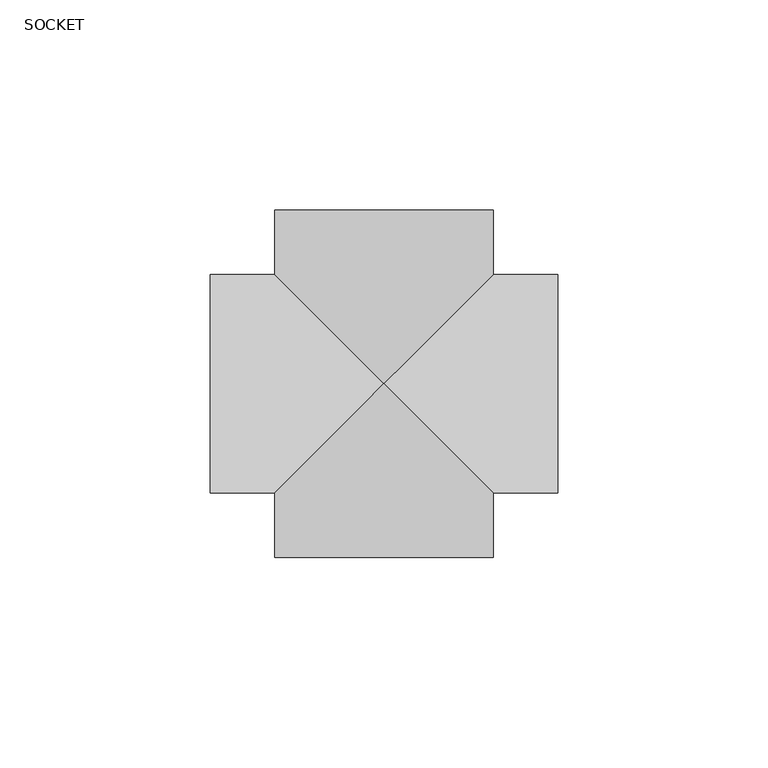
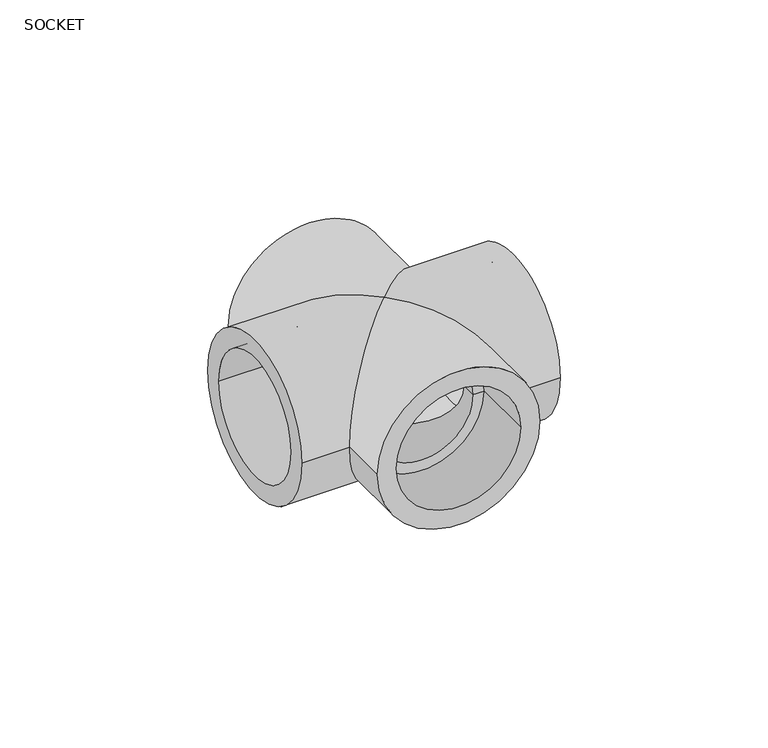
"""IFC4 building model written with IfcOpenShell, lengths in millimetres: pipe fitting geometry, Aquatherm - Cross Socket : SOCKET."""

from ifc_helpers import new_model, si_unit, frame, origin, place, context, project, spatial, polyline, circle_curve, ellipse_curve, source, transform, mapped, element, save
from ifc_brep_helpers import plane_surface, cylinder_surface, revolved_surface, advanced_brep


def socket_570f48e5(model_context):
    return source(origin(), model_context, "Body", "AdvancedBrep", [
        advanced_brep(
        [(-26.035, -41.402, 0.0), (26.035, -41.402, 0.0), (19.939, -41.402, 0.0), (-19.939, -41.402, 0.0), (-26.035, 41.402, 0.0), (26.035, 41.402, 0.0), (-19.939, 41.402, 0.0), (19.939, 41.402, 0.0), (-26.035, -26.035, 0.0), (0.0, 0.0, -26.035), (26.035, -26.035, 0.0), (26.035, 26.035, 0.0), (-26.035, 26.035, 0.0), (0.0, 0.0, 26.035), (41.402, -26.035, 0.0), (41.402, 26.035, 0.0), (41.402, 19.939, 0.0), (41.402, -19.939, 0.0), (-41.402, -26.035, 0.0), (-41.402, 26.035, 0.0), (-41.402, -19.939, 0.0), (-41.402, 19.939, 0.0), (-21.082, -19.939, 0.0), (-21.082, 19.939, 0.0), (21.082, -19.939, 0.0), (21.082, 19.939, 0.0), (21.082, 16.3137273, 0.0), (21.082, -16.3137273, 0.0), (16.3137273, 16.3137273, 0.0), (0.0, 0.0, -16.3137273), (16.3137273, -16.3137273, 0.0), (-21.082, 16.3137273, 0.0), (-21.082, -16.3137273, 0.0), (-16.3137273, -16.3137273, 0.0), (-16.3137273, 16.3137273, 0.0), (0.0, 0.0, 16.3137273), (-19.939, -21.082, 0.0), (19.939, -21.082, 0.0), (-19.939, 21.082, 0.0), (19.939, 21.082, 0.0), (-16.3137273, 21.082, 0.0), (16.3137273, 21.082, 0.0), (-16.3137273, -21.082, 0.0), (16.3137273, -21.082, 0.0)],
        [
            (0, 1, circle_curve(frame((0.0, -41.402, 0.0), z_axis=(0.0, -1.0, 0.0), x_axis=(1.0, 0.0, 0.0)), 26.035)),
            (1, 0, circle_curve(frame((0.0, -41.402, 0.0), z_axis=(0.0, -1.0, 0.0), x_axis=(1.0, 0.0, 0.0)), 26.035)),
            (2, 3, circle_curve(frame((0.0, -41.402, 0.0), z_axis=(0.0, 1.0, 0.0), x_axis=(1.0, 0.0, 0.0)), 19.939)),
            (3, 2, circle_curve(frame((0.0, -41.402, 0.0), z_axis=(0.0, 1.0, 0.0), x_axis=(1.0, 0.0, 0.0)), 19.939)),
            (4, 5, circle_curve(frame((0.0, 41.402, 0.0), z_axis=(0.0, 1.0, 0.0), x_axis=(1.0, 0.0, 0.0)), 26.035)),
            (5, 4, circle_curve(frame((0.0, 41.402, 0.0), z_axis=(0.0, 1.0, 0.0), x_axis=(1.0, 0.0, 0.0)), 26.035)),
            (6, 7, circle_curve(frame((0.0, 41.402, 0.0), z_axis=(0.0, -1.0, 0.0), x_axis=(1.0, 0.0, 0.0)), 19.939)),
            (7, 6, circle_curve(frame((0.0, 41.402, 0.0), z_axis=(0.0, -1.0, 0.0), x_axis=(1.0, 0.0, 0.0)), 19.939)),
            (0, 8),
            (8, 9, ellipse_curve(frame((0.0, 0.0, 0.0), z_axis=(0.7071067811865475, -0.7071067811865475, 0.0), x_axis=(-0.7071067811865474, -0.7071067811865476, 0.0)), 36.8190501, 26.035)),
            (9, 10, ellipse_curve(frame((0.0, 0.0, 0.0), z_axis=(-0.7071067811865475, -0.7071067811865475, 0.0), x_axis=(0.7071067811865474, -0.7071067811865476, 0.0)), 36.8190501, 26.035)),
            (10, 1),
            (5, 11),
            (11, 9, ellipse_curve(frame((0.0, 0.0, 0.0), z_axis=(-0.7071067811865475, 0.7071067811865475, 0.0), x_axis=(-0.7071067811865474, -0.7071067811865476, 0.0)), 36.8190501, 26.035)),
            (9, 12, ellipse_curve(frame((0.0, 0.0, 0.0), z_axis=(0.7071067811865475, 0.7071067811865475, 0.0), x_axis=(0.7071067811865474, -0.7071067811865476, 0.0)), 36.8190501, 26.035)),
            (12, 4),
            (10, 13, ellipse_curve(frame((0.0, 0.0, 0.0), z_axis=(-0.7071067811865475, -0.7071067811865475, 0.0), x_axis=(0.7071067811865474, -0.7071067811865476, 0.0)), 36.8190501, 26.035)),
            (13, 8, ellipse_curve(frame((0.0, 0.0, 0.0), z_axis=(0.7071067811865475, -0.7071067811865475, 0.0), x_axis=(-0.7071067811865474, -0.7071067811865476, 0.0)), 36.8190501, 26.035)),
            (12, 13, ellipse_curve(frame((0.0, 0.0, 0.0), z_axis=(0.7071067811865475, 0.7071067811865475, 0.0), x_axis=(0.7071067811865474, -0.7071067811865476, 0.0)), 36.8190501, 26.035)),
            (13, 11, ellipse_curve(frame((0.0, 0.0, 0.0), z_axis=(-0.7071067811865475, 0.7071067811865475, 0.0), x_axis=(-0.7071067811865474, -0.7071067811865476, 0.0)), 36.8190501, 26.035)),
            (14, 15, circle_curve(frame((41.402, 0.0, 0.0), z_axis=(1.0, 0.0, 0.0), x_axis=(0.0, 1.0, 0.0)), 26.035)),
            (15, 14, circle_curve(frame((41.402, 0.0, 0.0), z_axis=(1.0, 0.0, 0.0), x_axis=(0.0, 1.0, 0.0)), 26.035)),
            (16, 17, circle_curve(frame((41.402, 0.0, 0.0), z_axis=(-1.0, 0.0, 0.0), x_axis=(0.0, 1.0, 0.0)), 19.939)),
            (17, 16, circle_curve(frame((41.402, 0.0, 0.0), z_axis=(-1.0, 0.0, 0.0), x_axis=(0.0, 1.0, 0.0)), 19.939)),
            (18, 19, circle_curve(frame((-41.402, 0.0, 0.0), z_axis=(-1.0, 0.0, 0.0), x_axis=(0.0, 1.0, 0.0)), 26.035)),
            (19, 18, circle_curve(frame((-41.402, 0.0, 0.0), z_axis=(-1.0, 0.0, 0.0), x_axis=(0.0, 1.0, 0.0)), 26.035)),
            (20, 21, circle_curve(frame((-41.402, 0.0, 0.0), z_axis=(1.0, 0.0, 0.0), x_axis=(0.0, 1.0, 0.0)), 19.939)),
            (21, 20, circle_curve(frame((-41.402, 0.0, 0.0), z_axis=(1.0, 0.0, 0.0), x_axis=(0.0, 1.0, 0.0)), 19.939)),
            (14, 10),
            (11, 15),
            (19, 12),
            (8, 18),
            (20, 22),
            (22, 23, circle_curve(frame((-21.082, 0.0, 0.0), z_axis=(1.0, 0.0, 0.0), x_axis=(0.0, 1.0, 0.0)), 19.939)),
            (23, 21),
            (23, 22, circle_curve(frame((-21.082, 0.0, 0.0), z_axis=(1.0, 0.0, 0.0), x_axis=(0.0, 1.0, 0.0)), 19.939)),
            (24, 17),
            (16, 25),
            (25, 24, circle_curve(frame((21.082, 0.0, 0.0), z_axis=(-1.0, 0.0, 0.0), x_axis=(0.0, 1.0, 0.0)), 19.939)),
            (24, 25, circle_curve(frame((21.082, 0.0, 0.0), z_axis=(-1.0, 0.0, 0.0), x_axis=(0.0, 1.0, 0.0)), 19.939)),
            (25, 26),
            (26, 27, circle_curve(frame((21.082, 0.0, 0.0), z_axis=(-1.0, 0.0, 0.0), x_axis=(0.0, 1.0, 0.0)), 16.3137273)),
            (27, 24),
            (27, 26, circle_curve(frame((21.082, 0.0, 0.0), z_axis=(-1.0, 0.0, 0.0), x_axis=(0.0, 1.0, 0.0)), 16.3137273)),
            (26, 28),
            (28, 29, ellipse_curve(frame((0.0, 0.0, 0.0), z_axis=(-0.7071067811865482, 0.7071067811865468, 0.0), x_axis=(-0.7071067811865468, -0.7071067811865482, 0.0)), 23.0710944, 16.3137273)),
            (29, 30, ellipse_curve(frame((0.0, 0.0, 0.0), z_axis=(-0.7071067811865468, -0.7071067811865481, 0.0), x_axis=(-0.7071067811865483, 0.7071067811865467, 0.0)), 23.0710944, 16.3137273)),
            (30, 27),
            (31, 32, circle_curve(frame((-21.082, 0.0, 0.0), z_axis=(-1.0, 0.0, 0.0), x_axis=(0.0, 1.0, 0.0)), 16.3137273)),
            (32, 33),
            (33, 29, ellipse_curve(frame((0.0, 0.0, 0.0), z_axis=(0.7071067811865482, -0.7071067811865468, 0.0), x_axis=(-0.7071067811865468, -0.7071067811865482, 0.0)), 23.0710944, 16.3137273)),
            (29, 34, ellipse_curve(frame((0.0, 0.0, 0.0), z_axis=(0.7071067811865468, 0.7071067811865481, 0.0), x_axis=(-0.7071067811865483, 0.7071067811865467, 0.0)), 23.0710944, 16.3137273)),
            (34, 31),
            (30, 35, ellipse_curve(frame((0.0, 0.0, 0.0), z_axis=(-0.7071067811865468, -0.7071067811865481, 0.0), x_axis=(-0.7071067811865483, 0.7071067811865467, 0.0)), 23.0710944, 16.3137273)),
            (35, 28, ellipse_curve(frame((0.0, 0.0, 0.0), z_axis=(-0.7071067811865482, 0.7071067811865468, 0.0), x_axis=(-0.7071067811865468, -0.7071067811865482, 0.0)), 23.0710944, 16.3137273)),
            (32, 31, circle_curve(frame((-21.082, 0.0, 0.0), z_axis=(-1.0, 0.0, 0.0), x_axis=(0.0, 1.0, 0.0)), 16.3137273)),
            (34, 35, ellipse_curve(frame((0.0, 0.0, 0.0), z_axis=(0.7071067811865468, 0.7071067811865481, 0.0), x_axis=(-0.7071067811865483, 0.7071067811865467, 0.0)), 23.0710944, 16.3137273)),
            (35, 33, ellipse_curve(frame((0.0, 0.0, 0.0), z_axis=(0.7071067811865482, -0.7071067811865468, 0.0), x_axis=(-0.7071067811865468, -0.7071067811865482, 0.0)), 23.0710944, 16.3137273)),
            (22, 32),
            (31, 23),
            (36, 3),
            (2, 37),
            (37, 36, circle_curve(frame((0.0, -21.082, 0.0), z_axis=(0.0, 1.0, 0.0), x_axis=(1.0, 0.0, 0.0)), 19.939)),
            (36, 37, circle_curve(frame((0.0, -21.082, 0.0), z_axis=(0.0, 1.0, 0.0), x_axis=(1.0, 0.0, 0.0)), 19.939)),
            (6, 38),
            (38, 39, circle_curve(frame((0.0, 21.082, 0.0), z_axis=(0.0, -1.0, 0.0), x_axis=(1.0, 0.0, 0.0)), 19.939)),
            (39, 7),
            (39, 38, circle_curve(frame((0.0, 21.082, 0.0), z_axis=(0.0, -1.0, 0.0), x_axis=(1.0, 0.0, 0.0)), 19.939)),
            (38, 40),
            (40, 41, circle_curve(frame((0.0, 21.082, 0.0), z_axis=(0.0, -1.0, 0.0), x_axis=(1.0, 0.0, 0.0)), 16.3137273)),
            (41, 39),
            (41, 40, circle_curve(frame((0.0, 21.082, 0.0), z_axis=(0.0, -1.0, 0.0), x_axis=(1.0, 0.0, 0.0)), 16.3137273)),
            (40, 34),
            (28, 41),
            (42, 43, circle_curve(frame((0.0, -21.082, 0.0), z_axis=(0.0, -1.0, 0.0), x_axis=(1.0, 0.0, 0.0)), 16.3137273)),
            (43, 30),
            (33, 42),
            (43, 42, circle_curve(frame((0.0, -21.082, 0.0), z_axis=(0.0, -1.0, 0.0), x_axis=(1.0, 0.0, 0.0)), 16.3137273)),
            (37, 43),
            (42, 36),
        ],
        [
            plane_surface(frame((26.035, -41.402, 0.0), z_axis=(0.0, -1.0, 0.0), x_axis=(0.0, 0.0, 1.0))),
            plane_surface(frame((26.035, 41.402, 0.0), z_axis=(0.0, 1.0, 0.0), x_axis=(0.0, 0.0, -1.0))),
            cylinder_surface(frame((0.0, 41.402, 0.0), z_axis=(0.0, -1.0, 0.0), x_axis=(1.0, 0.0, 0.0)), 26.035),
            plane_surface(frame((41.402, 26.035, 0.0), z_axis=(1.0, 0.0, 0.0), x_axis=(0.0, 0.0, 1.0))),
            plane_surface(frame((-41.402, 26.035, 0.0), z_axis=(-1.0, 0.0, 0.0), x_axis=(0.0, 0.0, -1.0))),
            cylinder_surface(frame((-41.402, 0.0, 0.0), z_axis=(1.0, 0.0, 0.0), x_axis=(0.0, 1.0, 0.0)), 26.035),
            revolved_surface(polyline([(-41.402, 19.939, 0.0), (-21.082, 19.939, 0.0)]), (-56.1599939, 0.0, 0.0), (-1.0, 0.0, 0.0)),
            revolved_surface(polyline([(21.082000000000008, 19.939, 0.0), (41.402, 19.939, 0.0)]), (-56.1599939, 0.0, 0.0), (-1.0, 0.0, 0.0)),
            plane_surface(frame((21.082, 0.0, 0.0), z_axis=(1.0, 0.0, 0.0), x_axis=(0.0, 1.0, 0.0))),
            revolved_surface(polyline([(-16.313727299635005, 16.3137273, 0.0), (21.082000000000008, 16.3137273, 0.0)]), (-56.1599939, 0.0, 0.0), (-1.0, 0.0, 0.0)),
            revolved_surface(polyline([(-21.082, 16.3137273, 0.0), (16.313727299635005, 16.3137273, 0.0)]), (-56.1599939, 0.0, 0.0), (-1.0, 0.0, 0.0)),
            plane_surface(frame((-21.082, 0.0, 0.0), z_axis=(-1.0, 0.0, 0.0), x_axis=(0.0, 1.0, 0.0))),
            revolved_surface(polyline([(19.939, -21.082, 0.0), (19.939, -41.402, 0.0)]), (0.0, -56.1599939, 0.0), (0.0, 1.0, 0.0)),
            revolved_surface(polyline([(19.939, 41.402, 0.0), (19.939, 21.082000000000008, 0.0)]), (0.0, -56.1599939, 0.0), (0.0, 1.0, 0.0)),
            plane_surface(frame((0.0, 21.082, 0.0), z_axis=(0.0, 1.0, 0.0), x_axis=(1.0, 0.0, 0.0))),
            revolved_surface(polyline([(16.3137273, 21.082000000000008, 0.0), (16.3137273, -16.313727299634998, 0.0)]), (0.0, -56.1599939, 0.0), (0.0, 1.0, 0.0)),
            revolved_surface(polyline([(16.3137273, 16.313727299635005, 0.0), (16.3137273, -21.082, 0.0)]), (0.0, -56.1599939, 0.0), (0.0, 1.0, 0.0)),
            plane_surface(frame((0.0, -21.082, 0.0), z_axis=(0.0, -1.0, 0.0), x_axis=(1.0, 0.0, 0.0))),
        ],
        [
            (0, [[1, 2], [3, 4]]),
            (1, [[5, 6], [7, 8]]),
            (2, [[-1, 9, 10, 11, 12]]),
            (2, [[-6, 13, 14, 15, 16]]),
            (2, [[-2, -12, 17, 18, -9]]),
            (2, [[-5, -16, 19, 20, -13]]),
            (3, [[21, 22], [23, 24]]),
            (4, [[25, 26], [27, 28]]),
            (5, [[-21, 29, -11, -14, 30]]),
            (5, [[-26, 31, -15, -10, 32]]),
            (5, [[-22, -30, -20, -17, -29]]),
            (5, [[-25, -32, -18, -19, -31]]),
            (6, [[33, 34, 35, -27]]),
            (6, [[-33, -28, -35, 36]]),
            (7, [[37, -23, 38, 39]]),
            (7, [[-37, 40, -38, -24]]),
            (8, [[-39, 41, 42, 43]]),
            (8, [[-40, -43, 44, -41]]),
            (9, [[-42, 45, 46, 47, 48]]),
            (10, [[49, 50, 51, 52, 53]]),
            (9, [[-44, -48, 54, 55, -45]]),
            (10, [[56, -53, 57, 58, -50]]),
            (11, [[-34, 59, -49, 60]]),
            (11, [[-36, -60, -56, -59]]),
            (12, [[61, -3, 62, 63]]),
            (12, [[-61, 64, -62, -4]]),
            (13, [[65, 66, 67, -7]]),
            (13, [[-65, -8, -67, 68]]),
            (14, [[-66, 69, 70, 71]]),
            (14, [[-68, -71, 72, -69]]),
            (15, [[-70, 73, -52, -46, 74]]),
            (16, [[75, 76, -47, -51, 77]]),
            (15, [[-72, -74, -55, -57, -73]]),
            (16, [[78, -77, -58, -54, -76]]),
            (17, [[-63, 79, -75, 80]]),
            (17, [[-64, -80, -78, -79]]),
        ],
    ),
    ])


if __name__ == "__main__":
    model = new_model("IFC4")
    model_context = context("Model", 3, world=origin())
    ifc_project = project(units=[si_unit("LENGTHUNIT", "METRE", prefix="MILLI")], contexts=[model_context])
    site = spatial("IfcSite", under=ifc_project)
    building = spatial("IfcBuilding", under=site)
    placement = place(None, origin())
    ifc_socket_shape = socket_570f48e5(model_context)
    element("IfcPipeFitting", 1, ObjectType="Aquatherm - Cross Socket : SOCKET", at=placement, inside=building, context=model_context, shape_type="MappedRepresentation", body=[
        mapped(ifc_socket_shape, transform((0.0, 0.0, 0.0), x_axis=(1.0, 0.0, 0.0), y_axis=(0.0, 1.0, 0.0), z_axis=(0.0, 0.0, 1.0))),
    ])
    save(model, "model.ifc")
